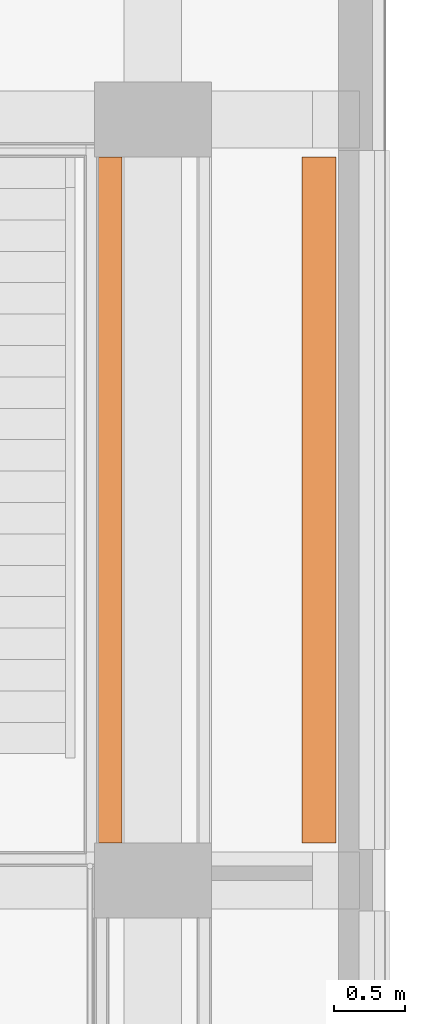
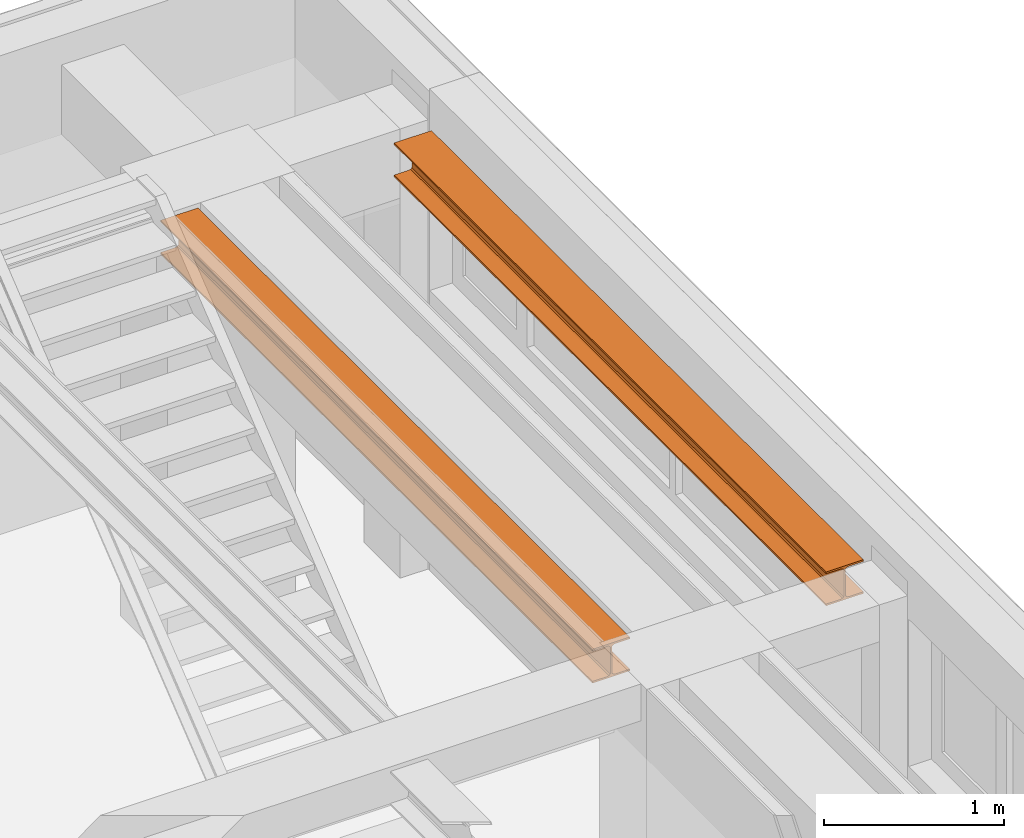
# One storey, part 126 of 135: 2 proxies.
"""IFC2X3 building model written with IfcOpenShell, lengths in millimetres."""

import ifcopenshell
import ifcopenshell.guid

model = None  # the IFC model being written
_history = None  # IfcOwnerHistory: only IFC2X3 demands one
_inside = {}  # id of a spatial element -> (the spatial element, [elements in it])
_under = {}  # id of a project, library or spatial element -> (it, [spatial elements below it])
_declared = {}  # id of a project -> (the project, [libraries it declares])
_typed = {}  # id of a type object -> (the type object, [elements of that type])
_made_of = {}  # id of a material, layer set ... -> (it, [elements and type objects made of it])


def new_model(schema):
    """Start an empty IFC model of exactly this schema.

    Asked for "IFC4X3", IfcOpenShell would pick the latest addendum, in which some entities
    have other attributes; the version numbers below select the first issue.
    IFC2X3 requires an IfcOwnerHistory on every rooted entity: one is made here for all.
    """
    global model, _history
    if schema == "IFC4X3":
        model = ifcopenshell.file(schema_version=(4, 3, 0, 0))
    else:
        model = ifcopenshell.file(schema=schema)
    _inside.clear()
    _under.clear()
    _declared.clear()
    _typed.clear()
    _made_of.clear()
    _history = None
    if model.schema == "IFC2X3":
        org = make("IfcOrganization", Name="unknown")
        user = make(
            "IfcPersonAndOrganization",
            ThePerson=make("IfcPerson", FamilyName="unknown"),
            TheOrganization=org,
        )
        app = make(
            "IfcApplication",
            ApplicationDeveloper=org,
            Version="unknown",
            ApplicationFullName="unknown",
            ApplicationIdentifier="unknown",
        )
        _history = make(
            "IfcOwnerHistory",
            OwningUser=user,
            OwningApplication=app,
            ChangeAction="ADDED",
            CreationDate=0,
        )
    return model


def make(cls, **values):
    """One entity of the class cls with the attributes given. An attribute that is None is left unset."""
    return model.create_entity(
        cls, **{name: value for name, value in values.items() if value is not None}
    )


def entity(cls, *values):
    """Any entity or typed value of the class cls, its attributes in the order of the schema. None: left unset."""
    e = model.create_entity(cls)
    for i, value in enumerate(values):
        if value is not None:
            e[i] = value
    return e


def rooted(cls, **values):
    """An entity with a GlobalId (a new one), such as an element, a storey or a relation."""
    return make(cls, GlobalId=ifcopenshell.guid.new(), OwnerHistory=_history, **values)


def si_unit(unit_type, name, prefix=None):
    """IfcSIUnit, for example si_unit("LENGTHUNIT", "METRE", prefix="MILLI")."""
    return make("IfcSIUnit", UnitType=unit_type, Prefix=prefix, Name=name)


def converted_unit(unit_type, name, factor, base, dimensions=None, offset=None):
    """IfcConversionBasedUnit, such as the inch: factor (a typed value) times the base unit."""
    return make(
        "IfcConversionBasedUnit"
        if offset is None
        else "IfcConversionBasedUnitWithOffset",
        ConversionOffset=offset,
        Dimensions=None
        if dimensions is None
        else entity("IfcDimensionalExponents", *dimensions),
        UnitType=unit_type,
        Name=name,
        ConversionFactor=make(
            "IfcMeasureWithUnit", ValueComponent=factor, UnitComponent=base
        ),
    )


def derived_unit(unit_type, elements):
    """IfcDerivedUnit: a product of units, each with its exponent."""
    return make(
        "IfcDerivedUnit",
        Elements=[
            make("IfcDerivedUnitElement", Unit=unit, Exponent=power)
            for unit, power in elements
        ],
        UnitType=unit_type,
    )


def money_unit(currency):
    """IfcMonetaryUnit."""
    return make("IfcMonetaryUnit", Currency=currency)


def assignment(units):
    """IfcUnitAssignment: the units of a project."""
    return None if units is None else make("IfcUnitAssignment", Units=units)


def point(xyz):
    """IfcCartesianPoint."""
    return None if xyz is None else make("IfcCartesianPoint", Coordinates=xyz)


def direction(xyz):
    """IfcDirection."""
    return None if xyz is None else make("IfcDirection", DirectionRatios=xyz)


def frame(location, z_axis=None, x_axis=None):
    """IfcAxis2Placement3D, a coordinate frame: its origin and axes. An axis left out is left unset."""
    return make(
        "IfcAxis2Placement3D",
        Location=point(location),
        Axis=direction(z_axis),
        RefDirection=direction(x_axis),
    )


def origin_with_axes():
    """The frame at (0, 0, 0) with the z axis (0, 0, 1) and the x axis (1, 0, 0) written out."""
    return frame((0.0, 0.0, 0.0), z_axis=(0.0, 0.0, 1.0), x_axis=(1.0, 0.0, 0.0))


def place(relative_to, where):
    """IfcLocalPlacement: puts the frame where relative to a parent placement (None: the world)."""
    return make(
        "IfcLocalPlacement", PlacementRelTo=relative_to, RelativePlacement=where
    )


def context(
    kind, dimensions, precision=None, world=None, true_north=None, identifier=None
):
    """IfcGeometricRepresentationContext, for example the 3D "Model" context."""
    return make(
        "IfcGeometricRepresentationContext",
        ContextIdentifier=identifier,
        ContextType=kind,
        CoordinateSpaceDimension=dimensions,
        Precision=precision,
        WorldCoordinateSystem=world,
        TrueNorth=true_north,
    )


def subcontext(parent, identifier, kind, view, scale=None):
    """IfcGeometricRepresentationSubContext, for example "Body" below "Model"."""
    return make(
        "IfcGeometricRepresentationSubContext",
        ContextIdentifier=identifier,
        ContextType=kind,
        ParentContext=parent,
        TargetScale=scale,
        TargetView=view,
    )


def project(units=None, contexts=None):
    """IfcProject with its units and contexts."""
    return rooted(
        "IfcProject",
        Name="project",
        RepresentationContexts=contexts,
        UnitsInContext=assignment(units),
    )


def spatial(cls, under=None, at=None, **own):
    """A site, building, storey or space (cls), placed at a placement, below another one or the project."""
    s = rooted(cls, ObjectPlacement=at, **own)
    if under is not None:
        _under.setdefault(under.id(), (under, []))[1].append(s)
    return s


def faces_of(points, faces, orient=None, outer=None):
    """IfcFace entities. A face is a list of loops; a loop is a list of indices into points, from 0.

    orient and outer hold one flag for each loop. By default every Orientation is true, the
    first loop of a face is its IfcFaceOuterBound and the others are IfcFaceBound.
    """
    made = []
    for i, loops in enumerate(faces):
        bounds = []
        for j, loop in enumerate(loops):
            is_outer = j == 0 if outer is None else outer[i][j]
            bounds.append(
                make(
                    "IfcFaceOuterBound" if is_outer else "IfcFaceBound",
                    Bound=make("IfcPolyLoop", Polygon=[points[k] for k in loop]),
                    Orientation=True if orient is None else orient[i][j],
                )
            )
        made.append(make("IfcFace", Bounds=bounds))
    return made


def faceted_brep(points, faces, orient=None, outer=None, voids=None):
    """IfcFacetedBrep: a solid bounded by flat faces; with voids (closed shells), ...WithVoids."""
    shared = [point(p) for p in points]
    hull = make("IfcClosedShell", CfsFaces=faces_of(shared, faces, orient, outer))
    if voids is None:
        return make("IfcFacetedBrep", Outer=hull)
    return make(
        "IfcFacetedBrepWithVoids",
        Outer=hull,
        Voids=[
            make(cls, CfsFaces=faces_of(shared, fs, o, b)) for cls, fs, o, b in voids
        ],
    )


def shape(context_of_items, identifier, shape_type, items):
    """IfcShapeRepresentation: the items that make up one representation, for example the "Body"."""
    return make(
        "IfcShapeRepresentation",
        ContextOfItems=context_of_items,
        RepresentationIdentifier=identifier,
        RepresentationType=shape_type,
        Items=items,
    )


def source(mapping_origin, context_of_items, identifier, shape_type, items):
    """IfcRepresentationMap: a shape defined once, which mapped items show again and again."""
    return make(
        "IfcRepresentationMap",
        MappingOrigin=mapping_origin,
        MappedRepresentation=shape(context_of_items, identifier, shape_type, items),
    )


def transform(
    local_origin,
    x_axis=None,
    y_axis=None,
    z_axis=None,
    scale=None,
    scale2=None,
    scale3=None,
    uniform=True,
):
    """IfcCartesianTransformationOperator3D, or its non-uniform kind. x_axis, y_axis, z_axis: its Axis1, 2, 3."""
    if uniform:
        return make(
            "IfcCartesianTransformationOperator3D",
            Axis1=direction(x_axis),
            Axis2=direction(y_axis),
            LocalOrigin=point(local_origin),
            Scale=scale,
            Axis3=direction(z_axis),
        )
    return make(
        "IfcCartesianTransformationOperator3DnonUniform",
        Axis1=direction(x_axis),
        Axis2=direction(y_axis),
        LocalOrigin=point(local_origin),
        Scale=scale,
        Axis3=direction(z_axis),
        Scale2=scale2,
        Scale3=scale3,
    )


def mapped(mapping_source, mapping_target):
    """IfcMappedItem: shows the shape of a source again, moved by a transform."""
    return make(
        "IfcMappedItem", MappingSource=mapping_source, MappingTarget=mapping_target
    )


def material(Name=None, Category=None):
    """IfcMaterial."""
    return make("IfcMaterial", Name=Name, Category=Category)


def made_of(thing, what):
    """Note that an element or type object is made of a material, layer set ...; save() writes the relation."""
    if what is not None:
        _made_of.setdefault(what.id(), (what, []))[1].append(thing)
    return thing


def type_object(cls, material=None, **own):
    """A type object (cls), such as IfcWallType, which elements share."""
    return made_of(rooted(cls, **own), material)


def type_shapes(of_type, sources):
    """Give a type object the sources (RepresentationMaps) that its elements show as mapped items."""
    of_type.RepresentationMaps = sources


def element(
    cls,
    number,
    at=None,
    inside=None,
    cuts=None,
    type_object=None,
    material=None,
    context=None,
    identifier="Body",
    shape_type=None,
    held_by="IfcProductDefinitionShape",
    body=None,
    shapes=None,
    **own,
):
    """One element of the class cls, such as IfcWall. Its Tag is "e" and its number.

    at: its placement. inside: the storey or other place that contains it. cuts: it is an
    opening in that element (IfcRelVoidsElement). A single representation is given by context,
    identifier, shape_type and body (its items); several are given by shapes. held_by: the class
    of the entity that holds the representations. save() writes the other relations.
    """
    e = rooted(cls, Tag="e%d" % number, ObjectPlacement=at, **own)
    if body is not None:
        shapes = [shape(context, identifier, shape_type, body)]
    if shapes is not None:
        e.Representation = make(held_by, Representations=shapes)
    if inside is not None:
        _inside.setdefault(inside.id(), (inside, []))[1].append(e)
    if cuts is not None:
        rooted(
            "IfcRelVoidsElement", RelatingBuildingElement=cuts, RelatedOpeningElement=e
        )
    if type_object is not None:
        _typed.setdefault(type_object.id(), (type_object, []))[1].append(e)
    return made_of(e, material)


def aggregate(whole, parts):
    """IfcRelAggregates: a whole, such as a stair, and the parts it consists of."""
    return rooted("IfcRelAggregates", RelatingObject=whole, RelatedObjects=parts)


def save(model, path):
    """Write the relations noted so far, then the file.

    IfcRelAggregates (storeys below a building ...), IfcRelContainedInSpatialStructure (elements
    in a storey), IfcRelDefinesByType, IfcRelAssociatesMaterial and IfcRelDeclares: one each for
    every whole, place, type object, material and project.
    """
    for whole, parts in _under.values():
        aggregate(whole, parts)
    for where, things in _inside.values():
        rooted(
            "IfcRelContainedInSpatialStructure",
            RelatedElements=things,
            RelatingStructure=where,
        )
    for kind, things in _typed.values():
        rooted("IfcRelDefinesByType", RelatedObjects=things, RelatingType=kind)
    for what, things in _made_of.values():
        rooted("IfcRelAssociatesMaterial", RelatedObjects=things, RelatingMaterial=what)
    for by, libraries in _declared.values():
        rooted("IfcRelDeclares", RelatingContext=by, RelatedDefinitions=libraries)
    model.write(path)


model = new_model("IFC2X3")

# Units and contexts
model_context = context("Model", 3, precision=0.01, world=origin_with_axes(), true_north=direction((0.0, 1.0)))
body_context = subcontext(model_context, "Body", "Model", "MODEL_VIEW")
ifc_project = project(units=[si_unit("LENGTHUNIT", "METRE", prefix="MILLI"), si_unit("AREAUNIT", "SQUARE_METRE"), si_unit("VOLUMEUNIT", "CUBIC_METRE"), converted_unit("PLANEANGLEUNIT", "DEGREE", entity("IfcPlaneAngleMeasure", 0.0174532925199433), si_unit("PLANEANGLEUNIT", "RADIAN"), dimensions=[0, 0, 0, 0, 0, 0, 0]), money_unit("EUR"), converted_unit("TIMEUNIT", "Year", entity("IfcTimeMeasure", 31557600.0), si_unit("TIMEUNIT", "SECOND"), dimensions=[0, 0, 1, 0, 0, 0, 0]), si_unit("MASSUNIT", "GRAM", prefix="KILO"), si_unit("THERMODYNAMICTEMPERATUREUNIT", "DEGREE_CELSIUS"), si_unit("LUMINOUSINTENSITYUNIT", "LUMEN"), si_unit("ENERGYUNIT", "JOULE", prefix="MEGA"), derived_unit("THERMALCONDUCTANCEUNIT", [(si_unit("POWERUNIT", "WATT"), 1), (si_unit("LENGTHUNIT", "METRE"), -1), (si_unit("THERMODYNAMICTEMPERATUREUNIT", "KELVIN"), -1)]), derived_unit("SPECIFICHEATCAPACITYUNIT", [(si_unit("ENERGYUNIT", "JOULE"), 1), (si_unit("MASSUNIT", "GRAM", prefix="KILO"), -1), (si_unit("THERMODYNAMICTEMPERATUREUNIT", "KELVIN"), -1)]), derived_unit("MASSDENSITYUNIT", [(si_unit("MASSUNIT", "GRAM", prefix="KILO"), 1), (si_unit("VOLUMEUNIT", "CUBIC_METRE"), -1)])], contexts=[model_context])

# Site, building, storey
site_placement = place(None, origin_with_axes())
site = spatial("IfcSite", under=ifc_project, at=site_placement, Name="Site", CompositionType="ELEMENT")
building_placement = place(site_placement, origin_with_axes())
building = spatial("IfcBuilding", under=site, at=building_placement, Name="Naam gebouw", CompositionType="ELEMENT")
storey_placement = place(building_placement, origin_with_axes())
storey = spatial("IfcBuildingStorey", under=building, at=storey_placement, Name="Begane grond N", CompositionType="ELEMENT", Elevation=0.0)

# Proxies
ifc_material = material(Name="Metaal - Staal AFW")
building_element_proxy_type = type_object("IfcBuildingElementProxyType", Name="HEA balk 27", PredefinedType="NOTDEFINED")
shared_shape = source(origin_with_axes(), body_context, "Body", "Brep", [
    faceted_brep([(0.0, -120.0, 0.0), (-4804.999999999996, -120.0000000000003, 0.0), (-4804.999999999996, 119.9999999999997, 0.0), (0.0, 120.0, 0.0), (0.0, -120.0, 12.0), (-4804.999999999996, -120.0000000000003, 12.00000000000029), (-4804.999999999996, -24.75000000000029, 12.00000000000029), (-4804.999999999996, -14.2500000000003, 14.81346652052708), (-4804.999999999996, -6.563466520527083, 22.50000000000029), (-4804.999999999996, -3.750000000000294, 33.00000000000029), (-4804.999999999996, -3.750000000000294, 197.0000000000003), (-4804.999999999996, -6.563466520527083, 207.5000000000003), (-4804.999999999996, -14.2500000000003, 215.1865334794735), (-4804.999999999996, -24.75000000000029, 218.0000000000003), (-4804.999999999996, -120.0000000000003, 218.0000000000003), (-4804.999999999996, -120.0000000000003, 230.0000000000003), (-4804.999999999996, 119.9999999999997, 230.0000000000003), (-4804.999999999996, 119.9999999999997, 218.0000000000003), (-4804.999999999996, 24.7499999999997, 218.0000000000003), (-4804.999999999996, 14.24999999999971, 215.1865334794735), (-4804.999999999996, 6.563466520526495, 207.5000000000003), (-4804.999999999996, 3.749999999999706, 197.0000000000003), (-4804.999999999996, 3.749999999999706, 33.00000000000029), (-4804.999999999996, 6.563466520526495, 22.50000000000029), (-4804.999999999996, 14.24999999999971, 14.81346652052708), (-4804.999999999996, 24.74999999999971, 12.00000000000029), (-4804.999999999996, 119.9999999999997, 12.00000000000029), (0.0, 120.0, 12.0), (0.0, 24.75, 12.0), (0.0, 14.25, 14.81346652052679), (0.0, 6.563466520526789, 22.5), (0.0, 3.75, 33.0), (0.0, 3.75, 197.0), (0.0, 6.563466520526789, 207.5), (0.0, 14.25, 215.1865334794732), (0.0, 24.75, 218.0), (0.0, 120.0, 218.0), (0.0, 120.0, 230.0), (0.0, -120.0, 230.0), (0.0, -120.0, 218.0), (0.0, -24.75, 218.0), (0.0, -14.25, 215.1865334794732), (0.0, -6.563466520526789, 207.5), (0.0, -3.75, 197.0), (0.0, -3.75, 33.0), (0.0, -6.563466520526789, 22.5), (0.0, -14.25, 14.81346652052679), (0.0, -24.75, 12.0)], [[[0, 1, 2, 3]], [[4, 5, 1, 0]], [[1, 5, 6, 7, 8, 9, 10, 11, 12, 13, 14, 15, 16, 17, 18, 19, 20, 21, 22, 23, 24, 25, 26, 2]], [[3, 2, 26, 27]], [[0, 3, 27, 28, 29, 30, 31, 32, 33, 34, 35, 36, 37, 38, 39, 40, 41, 42, 43, 44, 45, 46, 47, 4]], [[47, 6, 5, 4]], [[46, 7, 6, 47]], [[45, 8, 7, 46]], [[44, 9, 8, 45]], [[43, 10, 9, 44]], [[42, 11, 10, 43]], [[41, 12, 11, 42]], [[40, 13, 12, 41]], [[39, 14, 13, 40]], [[38, 15, 14, 39]], [[37, 16, 15, 38]], [[36, 17, 16, 37]], [[35, 18, 17, 36]], [[34, 19, 18, 35]], [[33, 20, 19, 34]], [[32, 21, 20, 33]], [[31, 22, 21, 32]], [[30, 23, 22, 31]], [[29, 24, 23, 30]], [[28, 25, 24, 29]], [[27, 26, 25, 28]]]),
])
type_shapes(building_element_proxy_type, [shared_shape])
for number, where, z_axis, x_axis, name in (
    (1, (28270.99999999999, 49538.4124251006, 3590.0), (0.0, 0.0, 1.0), (0.0, -1.0, 0.0), "_Boom-x"),
    (2, (29770.99999999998, 49538.4124251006, 3590.0), (0.0, 0.0, 1.0), (0.0, -1.0, 0.0), "_Boom-x"),
):
    element("IfcBuildingElementProxy", number, at=place(storey_placement, frame(where, z_axis=z_axis, x_axis=x_axis)), inside=storey, type_object=building_element_proxy_type, material=ifc_material, Name=name, context=body_context, shape_type="MappedRepresentation", body=[
        mapped(shared_shape, transform((0.0, 0.0, 0.0))),
    ])

save(model, "model.ifc")
